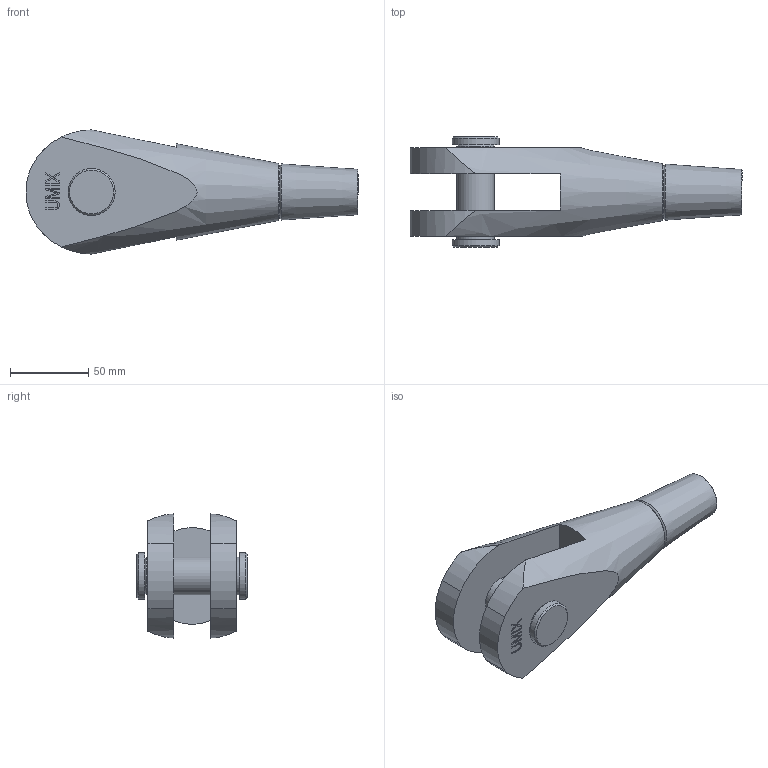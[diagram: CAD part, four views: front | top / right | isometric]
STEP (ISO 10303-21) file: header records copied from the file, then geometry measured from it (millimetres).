
FILE_DESCRIPTION(/* description */ (''),/* implementation_level */ '2;1');
FILE_NAME(/* name */ 'C:\Vault_WS\Designs\520-024-GAK.stp',/* time_stamp */ '2020-06-25T07:46:37+02:00',/* author */ ('schwarz'),/* organization */ (''),/* preprocessor_version */ 'ST-DEVELOPER v16.1',/* originating_system */ 'Autodesk Inventor 2016',/* authorisation */ '');
FILE_SCHEMA (('AUTOMOTIVE_DESIGN { 1 0 10303 214 3 1 1 }'));
Length unit declared in the file: centimetre
Products named in the file (1): 520-024-GAK-KMU-Kunde
Bounding box: 211.86 x 70.72 x 79.24 mm (x, y, z)
Volume: 353199.5 mm3; surface area: 60251.9 mm2
Topology: 2 solids, 3 shells, 186 faces, 479 edges, 317 vertices
Faces by surface type: plane 137, bspline 21, cylinder 16, cone 11, torus 1
Full cylindrical faces by diameter (mm): 4.917 x1, 6 x1, 6.8 x1, 12 x1, 24 x1, 25.5 x1, 26 x2, 30 x2
Entity records: 5775 total; most frequent: CARTESIAN_POINT 1268, ORIENTED_EDGE 900, DIRECTION 774, EDGE_CURVE 450, LINE 354, VECTOR 354, VERTEX_POINT 310, EDGE_LOOP 230
